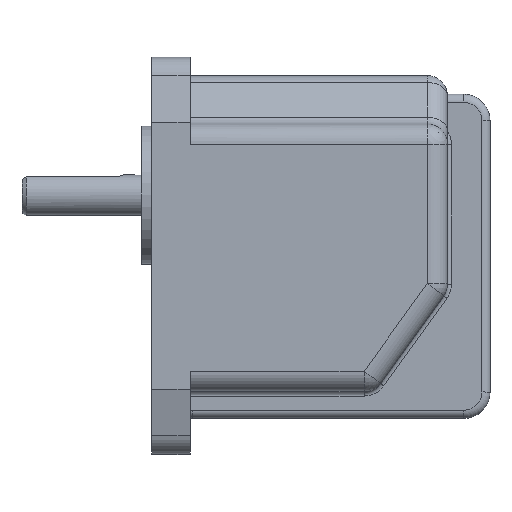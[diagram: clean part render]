
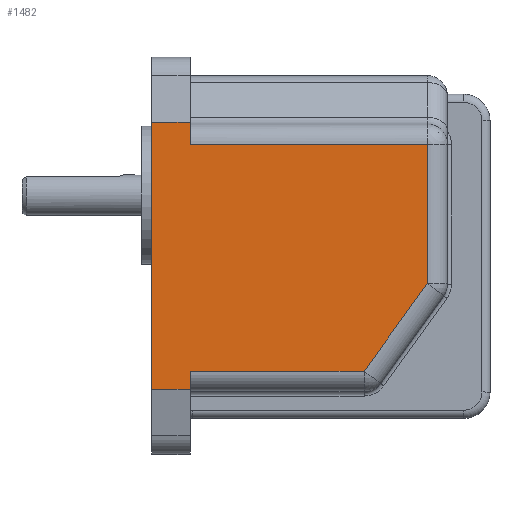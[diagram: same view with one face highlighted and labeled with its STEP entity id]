
A CAD part, top view. The second image highlights one B-rep face of the part: STEP entity #1482.
In plain terms, the highlighted planar face has unit normal (0, 0, 1).
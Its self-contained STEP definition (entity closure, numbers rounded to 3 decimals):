
#591=CARTESIAN_POINT('',(-34.,33.,98.));
#592=VERTEX_POINT('',#591);
#599=CARTESIAN_POINT('',(-34.,27.5,98.0));
#600=VERTEX_POINT('',#599);
#601=CARTESIAN_POINT('',(-34.,27.5,98.));
#602=DIRECTION('',(0.0,1.0,0.0));
#603=VECTOR('',#602,5.5);
#604=LINE('',#601,#603);
#605=EDGE_CURVE('',#600,#592,#604,.T.);
#1023=CARTESIAN_POINT('',(8.939,-28.5,98.));
#1024=VERTEX_POINT('',#1023);
#1048=CARTESIAN_POINT('',(-34.,-28.5,98.));
#1049=VERTEX_POINT('',#1048);
#1066=CARTESIAN_POINT('',(8.939,-28.5,98.));
#1067=DIRECTION('',(-1.0,0.0,0.0));
#1068=VECTOR('',#1067,42.939);
#1069=LINE('',#1066,#1068);
#1070=EDGE_CURVE('',#1024,#1049,#1069,.T.);
#1152=CARTESIAN_POINT('',(24.5,-6.887,98.0));
#1153=VERTEX_POINT('',#1152);
#1249=CARTESIAN_POINT('',(24.5,27.5,98.0));
#1250=VERTEX_POINT('',#1249);
#1373=CARTESIAN_POINT('',(-34.,27.5,98.0));
#1374=DIRECTION('',(1.0,0.0,0.0));
#1375=VECTOR('',#1374,58.5);
#1376=LINE('',#1373,#1375);
#1377=EDGE_CURVE('',#600,#1250,#1376,.T.);
#1397=CARTESIAN_POINT('',(24.5,27.5,98.0));
#1398=DIRECTION('',(0.0,-1.0,0.0));
#1399=VECTOR('',#1398,34.387);
#1400=LINE('',#1397,#1399);
#1401=EDGE_CURVE('',#1250,#1153,#1400,.T.);
#1414=CARTESIAN_POINT('',(24.5,-6.887,98.0));
#1415=DIRECTION('',(-0.584,-0.812,0.));
#1416=VECTOR('',#1415,26.632);
#1417=LINE('',#1414,#1416);
#1418=EDGE_CURVE('',#1153,#1024,#1417,.T.);
#1440=CARTESIAN_POINT('',(29.5,32.5,98.0));
#1441=DIRECTION('',(0.0,0.0,1.0));
#1442=DIRECTION('',(1.0,0.0,0.0));
#1443=AXIS2_PLACEMENT_3D('',#1440,#1441,#1442);
#1444=PLANE('',#1443);
#1445=CARTESIAN_POINT('',(-34.,-33.,98.));
#1446=VERTEX_POINT('',#1445);
#1447=CARTESIAN_POINT('',(-34.,-28.5,98.));
#1448=DIRECTION('',(0.0,-1.0,0.0));
#1449=VECTOR('',#1448,4.5);
#1450=LINE('',#1447,#1449);
#1451=EDGE_CURVE('',#1049,#1446,#1450,.T.);
#1452=ORIENTED_EDGE('',*,*,#1451,.F.);
#1453=ORIENTED_EDGE('',*,*,#1070,.F.);
#1454=ORIENTED_EDGE('',*,*,#1418,.F.);
#1455=ORIENTED_EDGE('',*,*,#1401,.F.);
#1456=ORIENTED_EDGE('',*,*,#1377,.F.);
#1457=ORIENTED_EDGE('',*,*,#605,.T.);
#1458=CARTESIAN_POINT('',(-43.5,33.,98.));
#1459=VERTEX_POINT('',#1458);
#1460=CARTESIAN_POINT('',(-34.,33.,98.0));
#1461=DIRECTION('',(-1.0,0.0,0.0));
#1462=VECTOR('',#1461,9.5);
#1463=LINE('',#1460,#1462);
#1464=EDGE_CURVE('',#592,#1459,#1463,.T.);
#1465=ORIENTED_EDGE('',*,*,#1464,.T.);
#1466=CARTESIAN_POINT('',(-43.5,-33.,98.));
#1467=VERTEX_POINT('',#1466);
#1468=CARTESIAN_POINT('',(-43.5,33.,98.));
#1469=DIRECTION('',(0.0,-1.0,0.0));
#1470=VECTOR('',#1469,66.);
#1471=LINE('',#1468,#1470);
#1472=EDGE_CURVE('',#1459,#1467,#1471,.T.);
#1473=ORIENTED_EDGE('',*,*,#1472,.T.);
#1474=CARTESIAN_POINT('',(-43.5,-33.,98.));
#1475=DIRECTION('',(1.0,0.0,0.0));
#1476=VECTOR('',#1475,9.5);
#1477=LINE('',#1474,#1476);
#1478=EDGE_CURVE('',#1467,#1446,#1477,.T.);
#1479=ORIENTED_EDGE('',*,*,#1478,.T.);
#1480=EDGE_LOOP('',(#1452,#1453,#1454,#1455,#1456,#1457,#1465,#1473,#1479));
#1481=FACE_OUTER_BOUND('',#1480,.T.);
#1482=ADVANCED_FACE('',(#1481),#1444,.T.);
